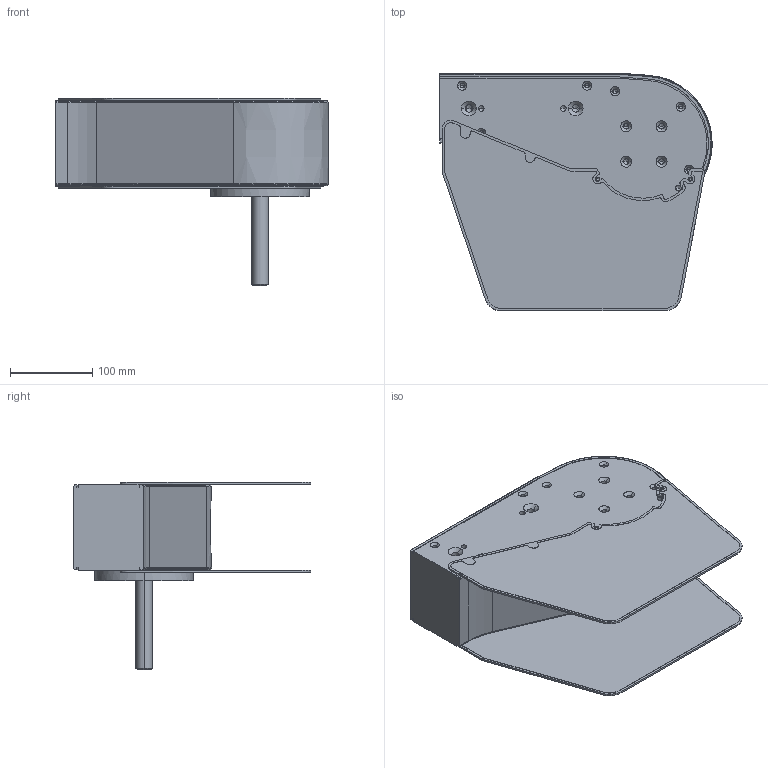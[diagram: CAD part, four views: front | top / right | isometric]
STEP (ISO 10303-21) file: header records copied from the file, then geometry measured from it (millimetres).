
FILE_DESCRIPTION (( 'STEP AP214' ), '1' );
FILE_NAME ('FCDD 105 0L.step', '2017-04-07T11:06:06', ( '' ), ( '' ), 'SwSTEP 2.0', 'SolidWorks 2016', '' );
FILE_SCHEMA (( 'AUTOMOTIVE_DESIGN' ));
Length unit declared in the file: millimetre
Products named in the file (1): FCDD 105 0L
Bounding box: 331.55 x 289.34 x 228.1 mm (x, y, z)
Volume: 4651060.8 mm3; surface area: 406803.8 mm2
Topology: 2 solids, 3 shells, 601 faces, 1599 edges, 972 vertices
Faces by surface type: cylinder 291, plane 157, cone 140, bspline 9, torus 4
Entity records: 22117 total; most frequent: CARTESIAN_POINT 4104, DIRECTION 3335, ORIENTED_EDGE 3046, EDGE_CURVE 1523, AXIS2_PLACEMENT_3D 1254, VERTEX_POINT 972, LINE 827, VECTOR 827
